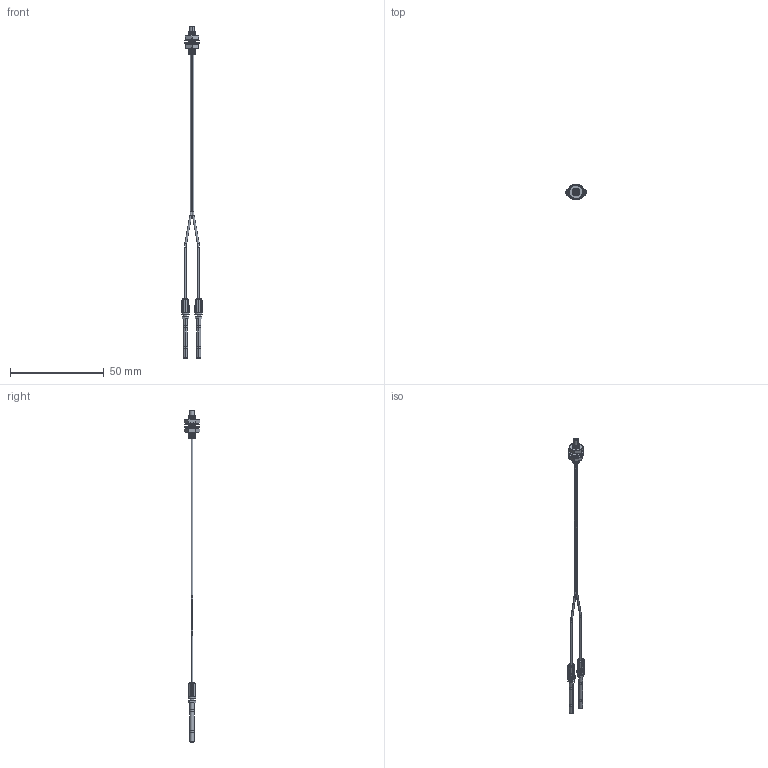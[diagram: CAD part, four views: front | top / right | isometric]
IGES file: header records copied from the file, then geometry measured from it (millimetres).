
Start section: SolidWorks IGES file using analytic representation for surfaces
Bounding box: 11 x 8.5 x 177.01 mm (x, y, z)
Surface area: 2590.5 mm2 (no closed solid volume)
Topology: 0 solids, 0 shells, 384 faces, 4376 edges, 4376 vertices
Faces by surface type: revolution 194, bspline 190
